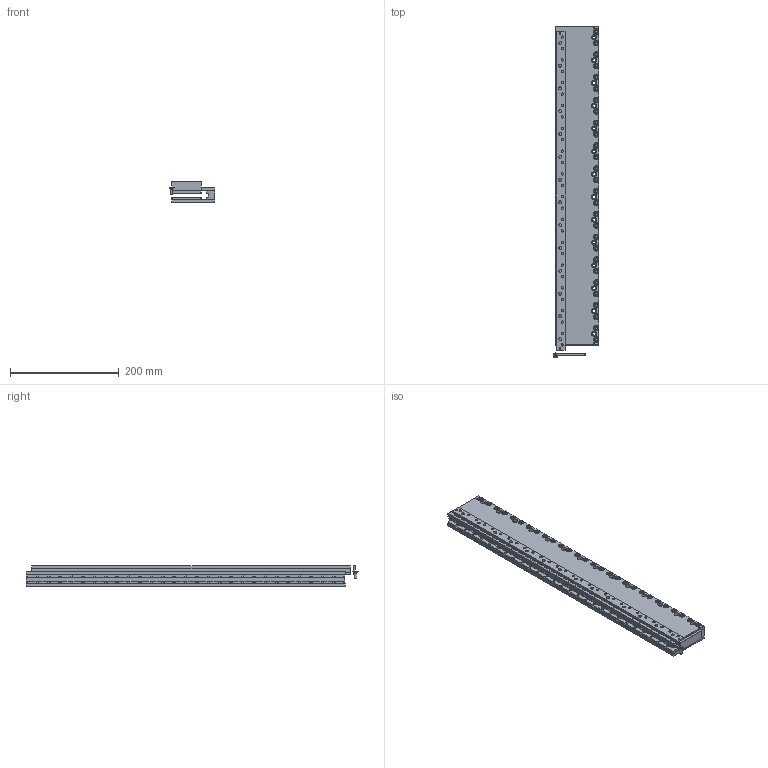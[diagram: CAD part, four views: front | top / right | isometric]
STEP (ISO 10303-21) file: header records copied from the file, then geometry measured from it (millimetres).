
FILE_DESCRIPTION( ( 'STEP AP203' ), '1' );
FILE_NAME( 'ML1500_02-B(588).stp', '2007-11-09T14:18:47', ( ' ' ), ( ' ' ), 'XStep 1.0', ' ', ' ' );
FILE_SCHEMA( ( 'CONFIG_CONTROL_DESIGN) ( )' ) );
Length unit declared in the file: metre
Products named in the file (6): Assem1; Assem2; 1; 2; 3; 4
Bounding box: 84.65 x 611.61 x 40.4 mm (x, y, z)
Volume: 1733887.2 mm3; surface area: 759805.8 mm2
Topology: 148 solids, 148 shells, 4520 faces, 11235 edges, 6956 vertices
Faces by surface type: cylinder 2086, plane 1417, torus 680, cone 337
Full cylindrical faces by diameter (mm): 3 x12, 4.2 x56, 5 x57, 5.5 x140, 9.2 x56, 9.3 x57
Entity records: 7892 total; most frequent: DIRECTION 1410, CARTESIAN_POINT 1391, ORIENTED_EDGE 964, AXIS2_PLACEMENT_3D 633, EDGE_LOOP 544, EDGE_CURVE 482, VERTEX_POINT 390, FACE_OUTER_BOUND 324
